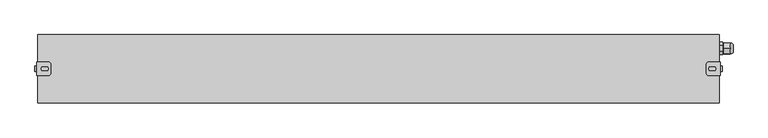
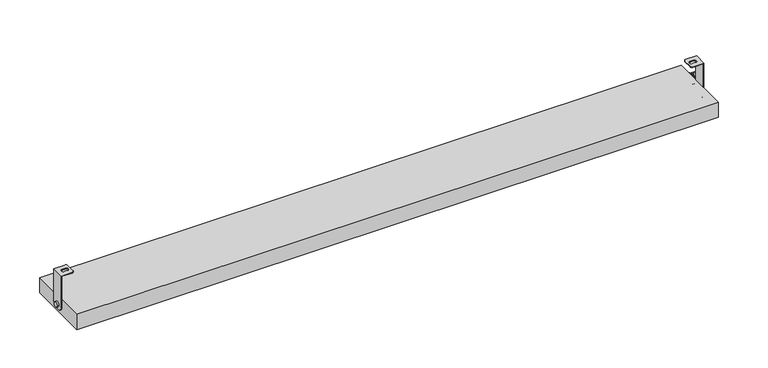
"""IFC4 building model written with IfcOpenShell, lengths in millimetres: light fixture geometry, GENILED_Светильник светодиодный_Titan Advanced : Titan Advanced 1000x100x25 40Вт IP66 Опал."""

from ifc_helpers import new_model, si_unit, point, frame, frame_2d, origin, origin_with_axes, place, context, project, spatial, polyline, circle_curve, ellipse_curve, trimmed, segment, composite_curve, outline, extrude, source, transform, mapped, element, save
from ifc_brep_helpers import plane_surface, cylinder_surface, revolved_surface, advanced_brep


def light_fixture_3a991945(model_context):
    return source(origin(), model_context, "Body", "SolidModel", [
        advanced_brep(
        [(-484.0, 10.0, 64.5), (-501.0, 10.0, 64.5), (-501.0, -10.0, 64.5), (-484.0, -10.0, 64.5), (-481.0, -7.0, 64.5), (-481.0, 7.0, 64.5), (-487.0, 2.75, 64.5), (-487.0, -2.75, 64.5), (-492.0, -2.75, 64.5), (-492.0, 2.75, 64.5), (-484.0, -10.0, 63.5), (-500.0, -10.0, 63.5), (-500.0, 10.0, 63.5), (-484.0, 10.0, 63.5), (-481.0, 7.0, 63.5), (-481.0, -7.0, 63.5), (-487.0, 2.75, 63.5), (-492.0, 2.75, 63.5), (-492.0, -2.75, 63.5), (-487.0, -2.75, 63.5), (-501.0, -10.0, 12.5), (-500.0, -10.0, 12.5), (-501.0, 10.0, 12.5), (-501.0, 2.0, 4.5), (-501.0, -2.0, 4.5), (-501.0, 4.0, 12.5), (-501.0, -4.0, 12.5), (-500.0, 10.0, 12.5), (-500.0, -2.0, 4.5), (-500.0, 2.0, 4.5), (-504.0, -4.0, 12.5), (-504.0, 4.0, 12.5)],
        [
            (0, 1),
            (1, 2),
            (2, 3),
            (3, 4, circle_curve(frame((-484.0, -7.0, 64.5), z_axis=(0.0, 0.0, 1.0), x_axis=(-1.0, 0.0, 0.0)), 3.0)),
            (4, 5),
            (5, 0, circle_curve(frame((-484.0, 7.0, 64.5), z_axis=(0.0, 0.0, 1.0), x_axis=(-1.0, 0.0, 0.0)), 3.0)),
            (6, 7, circle_curve(frame((-487.0, 0.0, 64.5), z_axis=(0.0, 0.0, -1.0), x_axis=(-1.0, 0.0, 0.0)), 2.75)),
            (7, 8),
            (8, 9, circle_curve(frame((-492.0, 0.0, 64.5), z_axis=(0.0, 0.0, -1.0), x_axis=(-1.0, 0.0, 0.0)), 2.75)),
            (9, 6),
            (10, 11),
            (11, 12),
            (12, 13),
            (13, 14, circle_curve(frame((-484.0, 7.0, 63.5), z_axis=(0.0, 0.0, -1.0), x_axis=(-1.0, 0.0, 0.0)), 3.0)),
            (14, 15),
            (15, 10, circle_curve(frame((-484.0, -7.0, 63.5), z_axis=(0.0, 0.0, -1.0), x_axis=(-1.0, 0.0, 0.0)), 3.0)),
            (16, 17),
            (17, 18, circle_curve(frame((-492.0, 0.0, 63.5), z_axis=(0.0, 0.0, 1.0), x_axis=(-1.0, 0.0, 0.0)), 2.75)),
            (18, 19),
            (19, 16, circle_curve(frame((-487.0, 0.0, 63.5), z_axis=(0.0, 0.0, 1.0), x_axis=(-1.0, 0.0, 0.0)), 2.75)),
            (5, 14),
            (13, 0),
            (4, 15),
            (3, 10),
            (2, 20),
            (20, 21),
            (21, 11),
            (1, 22),
            (22, 23, circle_curve(frame((-501.0, 2.0, 12.5), z_axis=(-1.0, 0.0, 0.0), x_axis=(0.0, 1.0, 0.0)), 8.0)),
            (23, 24),
            (24, 20, circle_curve(frame((-501.0, -2.0, 12.5), z_axis=(-1.0, 0.0, 0.0), x_axis=(0.0, 1.0, 0.0)), 8.0)),
            (25, 26, circle_curve(frame((-501.0, 0.0, 12.5), z_axis=(1.0, 0.0, 0.0), x_axis=(0.0, 1.0, 0.0)), 4.0)),
            (26, 25, circle_curve(frame((-501.0, 0.0, 12.5), z_axis=(1.0, 0.0, 0.0), x_axis=(0.0, 1.0, 0.0)), 4.0)),
            (12, 27),
            (27, 22),
            (9, 17),
            (16, 6),
            (8, 18),
            (7, 19),
            (21, 28, circle_curve(frame((-500.0, -2.0, 12.5), z_axis=(1.0, 0.0, 0.0), x_axis=(0.0, 1.0, 0.0)), 8.0)),
            (28, 29),
            (29, 27, circle_curve(frame((-500.0, 2.0, 12.5), z_axis=(1.0, 0.0, 0.0), x_axis=(0.0, 1.0, 0.0)), 8.0)),
            (24, 28),
            (23, 29),
            (30, 31, circle_curve(frame((-504.0, 0.0, 12.5), z_axis=(-1.0, 0.0, 0.0), x_axis=(0.0, 1.0, 0.0)), 4.0)),
            (31, 30, circle_curve(frame((-504.0, 0.0, 12.5), z_axis=(-1.0, 0.0, 0.0), x_axis=(0.0, 1.0, 0.0)), 4.0)),
            (31, 25),
            (26, 30),
        ],
        [
            plane_surface(frame((-487.0, 7.0, 64.5), z_axis=(0.0, 0.0, 1.0), x_axis=(0.0, 1.0, 0.0))),
            plane_surface(frame((-487.0, 7.0, 63.5), z_axis=(0.0, 0.0, -1.0), x_axis=(0.0, -1.0, 0.0))),
            cylinder_surface(frame((-484.0, 7.0, 63.5), z_axis=(0.0, 0.0, 1.0), x_axis=(-1.0, 0.0, 0.0)), 3.0),
            plane_surface(frame((-481.0, 7.0, 64.5), z_axis=(1.0, 0.0, 0.0), x_axis=(0.0, 0.0, -1.0))),
            cylinder_surface(frame((-484.0, -7.0, 63.5), z_axis=(0.0, 0.0, 1.0), x_axis=(-1.0, 0.0, 0.0)), 3.0),
            plane_surface(frame((-484.0, -10.0, 64.5), z_axis=(0.0, -1.0, 0.0), x_axis=(0.0, 0.0, -1.0))),
            plane_surface(frame((-501.0, -10.0, 64.5), z_axis=(-1.0, 0.0, 0.0), x_axis=(0.0, 0.0, -1.0))),
            plane_surface(frame((-501.0, 10.0, 64.5), z_axis=(0.0, 1.0, 0.0), x_axis=(0.0, 0.0, -1.0))),
            plane_surface(frame((-487.0, 2.75, 64.5), z_axis=(0.0, -1.0, 0.0), x_axis=(0.0, 0.0, -1.0))),
            revolved_surface(polyline([(-494.75, 0.0, 63.5), (-494.75, 0.0, 64.5)]), (-492.0, 0.0, 12.5), (0.0, 0.0, -1.0)),
            plane_surface(frame((-492.0, -2.75, 64.5), z_axis=(0.0, 1.0, 0.0), x_axis=(0.0, 0.0, -1.0))),
            revolved_surface(polyline([(-489.75, 0.0, 63.5), (-489.75, 0.0, 64.5)]), (-487.0, 0.0, 12.5), (0.0, 0.0, -1.0)),
            plane_surface(frame((-500.0, -10.0, 64.5), z_axis=(1.0, 0.0, 0.0), x_axis=(0.0, 1.0, 0.0))),
            cylinder_surface(frame((-500.0, -2.0, 12.5), z_axis=(-1.0, 0.0, 0.0), x_axis=(0.0, 1.0, 0.0)), 8.0),
            plane_surface(frame((-501.0, -2.0, 4.5), z_axis=(0.0, 0.0, -1.0), x_axis=(1.0, 0.0, 0.0))),
            cylinder_surface(frame((-500.0, 2.0, 12.5), z_axis=(-1.0, 0.0, 0.0), x_axis=(0.0, 1.0, 0.0)), 8.0),
            plane_surface(frame((-504.0, 4.0, 12.5), z_axis=(-1.0, 0.0, 0.0), x_axis=(0.0, 0.0, 1.0))),
            cylinder_surface(frame((-501.0, 0.0, 12.5), z_axis=(-1.0, 0.0, 0.0), x_axis=(0.0, 1.0, 0.0)), 4.0),
        ],
        [
            (0, [[1, 2, 3, 4, 5, 6], [7, 8, 9, 10]]),
            (1, [[11, 12, 13, 14, 15, 16], [17, 18, 19, 20]]),
            (2, [[21, -14, 22, -6]]),
            (3, [[23, -15, -21, -5]]),
            (4, [[24, -16, -23, -4]]),
            (5, [[-3, 25, 26, 27, -11, -24]]),
            (6, [[28, 29, 30, 31, -25, -2], [32, 33]]),
            (7, [[-13, 34, 35, -28, -1, -22]]),
            (8, [[36, -17, 37, -10]]),
            (9, [[38, -18, -36, -9]]),
            (10, [[39, -19, -38, -8]]),
            (11, [[-37, -20, -39, -7]]),
            (12, [[-34, -12, -27, 40, 41, 42]]),
            (13, [[43, -40, -26, -31]]),
            (14, [[44, -41, -43, -30]]),
            (15, [[-35, -42, -44, -29]]),
            (16, [[45, 46]]),
            (17, [[47, -33, 48, -46]]),
            (17, [[-48, -32, -47, -45]]),
        ],
    ),
        advanced_brep(
        [(484.0, 10.0, 64.5), (481.0, 7.0, 64.5), (481.0, -7.0, 64.5), (484.0, -10.0, 64.5), (501.0, -10.0, 64.5), (501.0, 10.0, 64.5), (487.0, 2.75, 64.5), (492.0, 2.75, 64.5), (492.0, -2.75, 64.5), (487.0, -2.75, 64.5), (484.0, -10.0, 63.5), (481.0, -7.0, 63.5), (481.0, 7.0, 63.5), (484.0, 10.0, 63.5), (500.0, 10.0, 63.5), (500.0, -10.0, 63.5), (487.0, 2.75, 63.5), (487.0, -2.75, 63.5), (492.0, -2.75, 63.5), (492.0, 2.75, 63.5), (500.0, -10.0, 12.5), (501.0, -10.0, 12.5), (501.0, -2.0, 4.5), (501.0, 2.0, 4.5), (501.0, 10.0, 12.5), (501.0, 4.0, 12.5), (501.0, -4.0, 12.5), (500.0, 10.0, 12.5), (500.0, 2.0, 4.5), (500.0, -2.0, 4.5), (504.0, -4.0, 12.5), (504.0, 4.0, 12.5)],
        [
            (0, 1, circle_curve(frame((484.0, 7.0, 64.5), z_axis=(0.0, 0.0, 1.0), x_axis=(1.0, 0.0, 0.0)), 3.0)),
            (1, 2),
            (2, 3, circle_curve(frame((484.0, -7.0, 64.5), z_axis=(0.0, 0.0, 1.0), x_axis=(1.0, 0.0, 0.0)), 3.0)),
            (3, 4),
            (4, 5),
            (5, 0),
            (6, 7),
            (7, 8, circle_curve(frame((492.0, 0.0, 64.5), z_axis=(0.0, 0.0, -1.0), x_axis=(1.0, 0.0, 0.0)), 2.75)),
            (8, 9),
            (9, 6, circle_curve(frame((487.0, 0.0, 64.5), z_axis=(0.0, 0.0, -1.0), x_axis=(1.0, 0.0, 0.0)), 2.75)),
            (10, 11, circle_curve(frame((484.0, -7.0, 63.5), z_axis=(0.0, 0.0, -1.0), x_axis=(1.0, 0.0, 0.0)), 3.0)),
            (11, 12),
            (12, 13, circle_curve(frame((484.0, 7.0, 63.5), z_axis=(0.0, 0.0, -1.0), x_axis=(1.0, 0.0, 0.0)), 3.0)),
            (13, 14),
            (14, 15),
            (15, 10),
            (16, 17, circle_curve(frame((487.0, 0.0, 63.5), z_axis=(0.0, 0.0, 1.0), x_axis=(1.0, 0.0, 0.0)), 2.75)),
            (17, 18),
            (18, 19, circle_curve(frame((492.0, 0.0, 63.5), z_axis=(0.0, 0.0, 1.0), x_axis=(1.0, 0.0, 0.0)), 2.75)),
            (19, 16),
            (0, 13),
            (12, 1),
            (11, 2),
            (10, 3),
            (15, 20),
            (20, 21),
            (21, 4),
            (21, 22, circle_curve(frame((501.0, -2.0, 12.5), z_axis=(1.0, 0.0, 0.0), x_axis=(0.0, 1.0, 0.0)), 8.0)),
            (22, 23),
            (23, 24, circle_curve(frame((501.0, 2.0, 12.5), z_axis=(1.0, 0.0, 0.0), x_axis=(0.0, 1.0, 0.0)), 8.0)),
            (24, 5),
            (25, 26, circle_curve(frame((501.0, 0.0, 12.5), z_axis=(-1.0, 0.0, 0.0), x_axis=(0.0, 1.0, 0.0)), 4.0)),
            (26, 25, circle_curve(frame((501.0, 0.0, 12.5), z_axis=(-1.0, 0.0, 0.0), x_axis=(0.0, 1.0, 0.0)), 4.0)),
            (24, 27),
            (27, 14),
            (6, 16),
            (19, 7),
            (18, 8),
            (17, 9),
            (27, 28, circle_curve(frame((500.0, 2.0, 12.5), z_axis=(-1.0, 0.0, 0.0), x_axis=(0.0, 1.0, 0.0)), 8.0)),
            (28, 29),
            (29, 20, circle_curve(frame((500.0, -2.0, 12.5), z_axis=(-1.0, 0.0, 0.0), x_axis=(0.0, 1.0, 0.0)), 8.0)),
            (29, 22),
            (28, 23),
            (30, 31, circle_curve(frame((504.0, 0.0, 12.5), z_axis=(1.0, 0.0, 0.0), x_axis=(0.0, 1.0, 0.0)), 4.0)),
            (31, 30, circle_curve(frame((504.0, 0.0, 12.5), z_axis=(1.0, 0.0, 0.0), x_axis=(0.0, 1.0, 0.0)), 4.0)),
            (30, 26),
            (25, 31),
        ],
        [
            plane_surface(frame((487.0, 7.0, 64.5), z_axis=(0.0, 0.0, 1.0), x_axis=(0.0, 1.0, 0.0))),
            plane_surface(frame((487.0, 7.0, 63.5), z_axis=(0.0, 0.0, -1.0), x_axis=(0.0, -1.0, 0.0))),
            cylinder_surface(frame((484.0, 7.0, 63.5), z_axis=(0.0, 0.0, 1.0), x_axis=(1.0, 0.0, 0.0)), 3.0),
            plane_surface(frame((481.0, 7.0, 64.5), z_axis=(-1.0, 0.0, 0.0), x_axis=(0.0, 0.0, -1.0))),
            cylinder_surface(frame((484.0, -7.0, 63.5), z_axis=(0.0, 0.0, 1.0), x_axis=(1.0, 0.0, 0.0)), 3.0),
            plane_surface(frame((484.0, -10.0, 64.5), z_axis=(0.0, -1.0, 0.0), x_axis=(0.0, 0.0, -1.0))),
            plane_surface(frame((501.0, -10.0, 64.5), z_axis=(1.0, 0.0, 0.0), x_axis=(0.0, 0.0, -1.0))),
            plane_surface(frame((501.0, 10.0, 64.5), z_axis=(0.0, 1.0, 0.0), x_axis=(0.0, 0.0, -1.0))),
            plane_surface(frame((487.0, 2.75, 64.5), z_axis=(0.0, -1.0, 0.0), x_axis=(0.0, 0.0, -1.0))),
            revolved_surface(polyline([(494.75, 0.0, 63.5), (494.75, 0.0, 64.5)]), (492.0, 0.0, 12.5), (0.0, 0.0, -1.0)),
            plane_surface(frame((492.0, -2.75, 64.5), z_axis=(0.0, 1.0, 0.0), x_axis=(0.0, 0.0, -1.0))),
            revolved_surface(polyline([(489.75, 0.0, 63.5), (489.75, 0.0, 64.5)]), (487.0, 0.0, 12.5), (0.0, 0.0, -1.0)),
            plane_surface(frame((500.0, -10.0, 64.5), z_axis=(-1.0, 0.0, 0.0), x_axis=(0.0, 1.0, 0.0))),
            cylinder_surface(frame((500.0, -2.0, 12.5), z_axis=(1.0, 0.0, 0.0), x_axis=(0.0, 1.0, 0.0)), 8.0),
            plane_surface(frame((501.0, -2.0, 4.5), z_axis=(0.0, 0.0, -1.0), x_axis=(-1.0, 0.0, 0.0))),
            cylinder_surface(frame((500.0, 2.0, 12.5), z_axis=(1.0, 0.0, 0.0), x_axis=(0.0, 1.0, 0.0)), 8.0),
            plane_surface(frame((504.0, 4.0, 12.5), z_axis=(1.0, 0.0, 0.0), x_axis=(0.0, 0.0, 1.0))),
            cylinder_surface(frame((501.0, 0.0, 12.5), z_axis=(1.0, 0.0, 0.0), x_axis=(0.0, 1.0, 0.0)), 4.0),
        ],
        [
            (0, [[1, 2, 3, 4, 5, 6], [7, 8, 9, 10]]),
            (1, [[11, 12, 13, 14, 15, 16], [17, 18, 19, 20]]),
            (2, [[-1, 21, -13, 22]]),
            (3, [[-2, -22, -12, 23]]),
            (4, [[-3, -23, -11, 24]]),
            (5, [[-24, -16, 25, 26, 27, -4]]),
            (6, [[-5, -27, 28, 29, 30, 31], [32, 33]]),
            (7, [[-21, -6, -31, 34, 35, -14]]),
            (8, [[-7, 36, -20, 37]]),
            (9, [[-8, -37, -19, 38]]),
            (10, [[-9, -38, -18, 39]]),
            (11, [[-10, -39, -17, -36]]),
            (12, [[40, 41, 42, -25, -15, -35]]),
            (13, [[-28, -26, -42, 43]]),
            (14, [[-29, -43, -41, 44]]),
            (15, [[-30, -44, -40, -34]]),
            (16, [[45, 46]]),
            (17, [[-45, 47, -32, 48]]),
            (17, [[-46, -48, -33, -47]]),
        ],
    ),
        advanced_brep(
        [(520.0120269, 24.15, 12.5), (520.0120269, 35.85, 12.5), (520.0120269, 33.5, 12.5), (520.0120269, 26.5, 12.5), (516.0120269, 22.0, 12.5), (516.0120269, 26.0, 5.5717968), (516.0120269, 34.0, 5.5717968), (516.0120269, 38.0, 12.5), (516.0120269, 34.0, 19.4282032), (516.0120269, 26.0, 19.4282032), (516.0120269, 33.5, 12.5), (516.0120269, 26.5, 12.5), (516.0120269, 22.0, 8.3768944), (516.0120269, 22.4292858, 7.6333496), (516.0120269, 29.5707142, 3.510244), (516.0120269, 30.4292858, 3.510244), (516.0120269, 37.5707142, 7.6333496), (516.0120269, 38.0, 8.3768944), (516.0120269, 38.0, 16.6231056), (516.0120269, 37.5707142, 17.3666504), (516.0120269, 30.4292858, 21.489756), (516.0120269, 29.5707142, 21.489756), (516.0120269, 22.4292858, 17.3666504), (516.0120269, 22.0, 16.6231056), (506.6, 29.5707142, 3.510244), (506.6, 22.4292858, 7.6333496), (506.6, 22.0, 8.3768944), (506.6, 22.0, 16.6231056), (506.6, 22.4292858, 17.3666504), (506.6, 29.5707142, 21.489756), (506.6, 30.4292858, 21.489756), (506.6, 37.5707142, 17.3666504), (506.6, 38.0, 16.6231056), (506.6, 38.0, 8.3768944), (506.6, 37.5707142, 7.6333496), (506.6, 30.4292858, 3.510244), (506.6, 37.25, 12.5), (506.6, 22.75, 12.5), (504.6, 37.25, 12.5), (504.6, 22.75, 12.5), (504.6, 38.989756, 12.9292858), (504.6, 34.8666504, 20.0707142), (504.6, 34.1231056, 20.5), (504.6, 25.8768944, 20.5), (504.6, 25.1333496, 20.0707142), (504.6, 21.010244, 12.9292858), (504.6, 21.0, 12.5), (504.6, 21.010244, 12.0707142), (504.6, 25.1333496, 4.9292858), (504.6, 25.8768944, 4.5), (504.6, 34.1231056, 4.5), (504.6, 34.8666504, 4.9292858), (504.6, 38.989756, 12.0707142), (504.6, 39.0, 12.5), (500.0, 38.989756, 12.0707142), (500.0, 34.8666504, 4.9292858), (500.0, 34.1231056, 4.5), (500.0, 25.8768944, 4.5), (500.0, 25.1333496, 4.9292858), (500.0, 21.010244, 12.0707142), (500.0, 21.0, 12.5), (500.0, 21.010244, 12.9292858), (500.0, 25.1333496, 20.0707142), (500.0, 25.8768944, 20.5), (500.0, 34.1231056, 20.5), (500.0, 34.8666504, 20.0707142), (500.0, 38.989756, 12.9292858), (500.0, 39.0, 12.5)],
        [
            (0, 1, circle_curve(frame((520.0120269, 30.0, 12.5), z_axis=(1.0, 0.0, 0.0), x_axis=(0.0, 1.0, 0.0)), 5.85)),
            (1, 2),
            (2, 3, circle_curve(frame((520.0120269, 30.0, 12.5), z_axis=(-1.0, 0.0, 0.0), x_axis=(0.0, 1.0, 0.0)), 3.5)),
            (3, 0),
            (1, 0, circle_curve(frame((520.0120269, 30.0, 12.5), z_axis=(1.0, 0.0, 0.0), x_axis=(0.0, 1.0, 0.0)), 5.85)),
            (3, 2, circle_curve(frame((520.0120269, 30.0, 12.5), z_axis=(-1.0, 0.0, 0.0), x_axis=(0.0, 1.0, 0.0)), 3.5)),
            (0, 4, circle_curve(frame((515.6269324, 27.5123851, 12.5), z_axis=(0.0, 0.0, -1.0), x_axis=(0.0, 1.0, 0.0)), 5.5258201)),
            (4, 5, circle_curve(frame((516.0120269, 30.0, 12.5), z_axis=(1.0, 0.0, 0.0), x_axis=(0.0, 1.0, 0.0)), 8.0)),
            (5, 6, circle_curve(frame((516.0120269, 30.0, 12.5), z_axis=(1.0, 0.0, 0.0), x_axis=(0.0, 1.0, 0.0)), 8.0)),
            (6, 7, circle_curve(frame((516.0120269, 30.0, 12.5), z_axis=(1.0, 0.0, 0.0), x_axis=(0.0, 1.0, 0.0)), 8.0)),
            (7, 1, circle_curve(frame((515.6269324, 32.4876149, 12.5), z_axis=(0.0, 0.0, -1.0), x_axis=(0.0, -1.0, 0.0)), 5.5258201)),
            (7, 8, circle_curve(frame((516.0120269, 30.0, 12.5), z_axis=(1.0, 0.0, 0.0), x_axis=(0.0, 1.0, 0.0)), 8.0)),
            (8, 9, circle_curve(frame((516.0120269, 30.0, 12.5), z_axis=(1.0, 0.0, 0.0), x_axis=(0.0, 1.0, 0.0)), 8.0)),
            (9, 4, circle_curve(frame((516.0120269, 30.0, 12.5), z_axis=(1.0, 0.0, 0.0), x_axis=(0.0, 1.0, 0.0)), 8.0)),
            (2, 10),
            (10, 11, circle_curve(frame((516.0120269, 30.0, 12.5), z_axis=(-1.0, 0.0, 0.0), x_axis=(0.0, 1.0, 0.0)), 3.5)),
            (11, 3),
            (11, 10, circle_curve(frame((516.0120269, 30.0, 12.5), z_axis=(-1.0, 0.0, 0.0), x_axis=(0.0, 1.0, 0.0)), 3.5)),
            (4, 12),
            (12, 13, circle_curve(frame((516.0120269, 30.0, 12.5), z_axis=(1.0, 0.0, 0.0), x_axis=(0.0, -1.0, 0.0)), 9.0)),
            (13, 5),
            (5, 14),
            (14, 15, circle_curve(frame((516.0120269, 30.0, 12.5), z_axis=(1.0, 0.0, 0.0), x_axis=(0.0, -1.0, 0.0)), 9.0)),
            (15, 6),
            (6, 16),
            (16, 17, circle_curve(frame((516.0120269, 30.0, 12.5), z_axis=(1.0, 0.0, 0.0), x_axis=(0.0, -1.0, 0.0)), 9.0)),
            (17, 7),
            (7, 18),
            (18, 19, circle_curve(frame((516.0120269, 30.0, 12.5), z_axis=(1.0, 0.0, 0.0), x_axis=(0.0, -1.0, 0.0)), 9.0)),
            (19, 8),
            (8, 20),
            (20, 21, circle_curve(frame((516.0120269, 30.0, 12.5), z_axis=(1.0, 0.0, 0.0), x_axis=(0.0, -1.0, 0.0)), 9.0)),
            (21, 9),
            (9, 22),
            (22, 23, circle_curve(frame((516.0120269, 30.0, 12.5), z_axis=(1.0, 0.0, 0.0), x_axis=(0.0, -1.0, 0.0)), 9.0)),
            (23, 4),
            (24, 25),
            (25, 26, circle_curve(frame((506.6, 30.0, 12.5), z_axis=(-1.0, 0.0, 0.0), x_axis=(0.0, -1.0, 0.0)), 9.0)),
            (26, 27),
            (27, 28, circle_curve(frame((506.6, 30.0, 12.5), z_axis=(-1.0, 0.0, 0.0), x_axis=(0.0, -1.0, 0.0)), 9.0)),
            (28, 29),
            (29, 30, circle_curve(frame((506.6, 30.0, 12.5), z_axis=(-1.0, 0.0, 0.0), x_axis=(0.0, -1.0, 0.0)), 9.0)),
            (30, 31),
            (31, 32, circle_curve(frame((506.6, 30.0, 12.5), z_axis=(-1.0, 0.0, 0.0), x_axis=(0.0, -1.0, 0.0)), 9.0)),
            (32, 33),
            (33, 34, circle_curve(frame((506.6, 30.0, 12.5), z_axis=(-1.0, 0.0, 0.0), x_axis=(0.0, -1.0, 0.0)), 9.0)),
            (34, 35),
            (35, 24, circle_curve(frame((506.6, 30.0, 12.5), z_axis=(-1.0, 0.0, 0.0), x_axis=(0.0, -1.0, 0.0)), 9.0)),
            (36, 37, circle_curve(frame((506.6, 30.0, 12.5), z_axis=(1.0, 0.0, 0.0), x_axis=(0.0, -1.0, 0.0)), 7.25)),
            (37, 36, circle_curve(frame((506.6, 30.0, 12.5), z_axis=(1.0, 0.0, 0.0), x_axis=(0.0, -1.0, 0.0)), 7.25)),
            (15, 35),
            (34, 16),
            (17, 33),
            (32, 18),
            (19, 31),
            (30, 20),
            (21, 29),
            (28, 22),
            (23, 27),
            (26, 12),
            (13, 25),
            (24, 14),
            (36, 38),
            (38, 39, circle_curve(frame((504.6, 30.0, 12.5), z_axis=(1.0, 0.0, 0.0), x_axis=(0.0, -1.0, 0.0)), 7.25)),
            (39, 37),
            (39, 38, circle_curve(frame((504.6, 30.0, 12.5), z_axis=(1.0, 0.0, 0.0), x_axis=(0.0, -1.0, 0.0)), 7.25)),
            (40, 41),
            (41, 42, circle_curve(frame((504.6, 30.0, 12.5), z_axis=(1.0, 0.0, 0.0), x_axis=(0.0, -1.0, 0.0)), 9.0)),
            (42, 43),
            (43, 44, circle_curve(frame((504.6, 30.0, 12.5), z_axis=(1.0, 0.0, 0.0), x_axis=(0.0, -1.0, 0.0)), 9.0)),
            (44, 45),
            (45, 46, circle_curve(frame((504.6, 30.0, 12.5), z_axis=(1.0, 0.0, 0.0), x_axis=(0.0, -1.0, 0.0)), 9.0)),
            (46, 47, circle_curve(frame((504.6, 30.0, 12.5), z_axis=(1.0, 0.0, 0.0), x_axis=(0.0, -1.0, 0.0)), 9.0)),
            (47, 48),
            (48, 49, circle_curve(frame((504.6, 30.0, 12.5), z_axis=(1.0, 0.0, 0.0), x_axis=(0.0, -1.0, 0.0)), 9.0)),
            (49, 50),
            (50, 51, circle_curve(frame((504.6, 30.0, 12.5), z_axis=(1.0, 0.0, 0.0), x_axis=(0.0, -1.0, 0.0)), 9.0)),
            (51, 52),
            (52, 53, circle_curve(frame((504.6, 30.0, 12.5), z_axis=(1.0, 0.0, 0.0), x_axis=(0.0, -1.0, 0.0)), 9.0)),
            (53, 40, circle_curve(frame((504.6, 30.0, 12.5), z_axis=(1.0, 0.0, 0.0), x_axis=(0.0, -1.0, 0.0)), 9.0)),
            (54, 55),
            (55, 56, circle_curve(frame((500.0, 30.0, 12.5), z_axis=(-1.0, 0.0, 0.0), x_axis=(0.0, -1.0, 0.0)), 9.0)),
            (56, 57),
            (57, 58, circle_curve(frame((500.0, 30.0, 12.5), z_axis=(-1.0, 0.0, 0.0), x_axis=(0.0, -1.0, 0.0)), 9.0)),
            (58, 59),
            (59, 60, circle_curve(frame((500.0, 30.0, 12.5), z_axis=(-1.0, 0.0, 0.0), x_axis=(0.0, -1.0, 0.0)), 9.0)),
            (60, 61, circle_curve(frame((500.0, 30.0, 12.5), z_axis=(-1.0, 0.0, 0.0), x_axis=(0.0, -1.0, 0.0)), 9.0)),
            (61, 62),
            (62, 63, circle_curve(frame((500.0, 30.0, 12.5), z_axis=(-1.0, 0.0, 0.0), x_axis=(0.0, -1.0, 0.0)), 9.0)),
            (63, 64),
            (64, 65, circle_curve(frame((500.0, 30.0, 12.5), z_axis=(-1.0, 0.0, 0.0), x_axis=(0.0, -1.0, 0.0)), 9.0)),
            (65, 66),
            (66, 67, circle_curve(frame((500.0, 30.0, 12.5), z_axis=(-1.0, 0.0, 0.0), x_axis=(0.0, -1.0, 0.0)), 9.0)),
            (67, 54, circle_curve(frame((500.0, 30.0, 12.5), z_axis=(-1.0, 0.0, 0.0), x_axis=(0.0, -1.0, 0.0)), 9.0)),
            (40, 66),
            (65, 41),
            (42, 64),
            (63, 43),
            (44, 62),
            (61, 45),
            (47, 59),
            (58, 48),
            (49, 57),
            (56, 50),
            (51, 55),
            (54, 52),
            (67, 53),
            (46, 60),
        ],
        [
            plane_surface(frame((520.0120269, 30.0, 12.5), z_axis=(1.0, 0.0, 0.0), x_axis=(0.0, 1.0, 0.0))),
            revolved_surface(trimmed(ellipse_curve(frame((515.6269324, 32.4876149, 12.5), z_axis=(0.0, 0.0, 1.0), x_axis=(0.0, -1.0, 0.0)), 5.5258201, 5.5258201), [point((520.0120269, 35.85, 12.5))], [point((516.0120269, 38.0, 12.5))], True, "CARTESIAN"), (516.0120269, 30.0, 12.5), (-1.0, 0.0, 0.0)),
            revolved_surface(polyline([(516.0120269, 33.5, 12.5), (520.0120269, 33.5, 12.5)]), (516.0120269, 30.0, 12.5), (-1.0, 0.0, 0.0)),
            plane_surface(frame((516.0120269, 30.0, 3.2623957), z_axis=(1.0000000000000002, 0.0, 0.0), x_axis=(0.0, 0.8660254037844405, 0.49999999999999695))),
            plane_surface(frame((506.6, 30.0, 3.2623957), z_axis=(-1.0000000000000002, 0.0, 0.0), x_axis=(0.0, -0.8660254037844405, -0.49999999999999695))),
            plane_surface(frame((516.0120269, 30.0, 3.2623957), z_axis=(0.0, 0.49999999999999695, -0.8660254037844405), x_axis=(-1.0, 0.0, 0.0))),
            plane_surface(frame((516.0120269, 38.0, 7.8811978), z_axis=(0.0, 1.0, 0.0), x_axis=(-1.0, 0.0, 0.0))),
            plane_surface(frame((516.0120269, 38.0, 17.1188022), z_axis=(0.0, 0.5000000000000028, 0.8660254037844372), x_axis=(-1.0, 0.0, 0.0))),
            plane_surface(frame((516.0120269, 30.0, 21.7376043), z_axis=(0.0, -0.49999999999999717, 0.8660254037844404), x_axis=(-1.0, 0.0, 0.0))),
            plane_surface(frame((516.0120269, 22.0, 17.1188022), z_axis=(0.0, -1.0, 0.0), x_axis=(-1.0, 0.0, 0.0))),
            plane_surface(frame((516.0120269, 22.0, 7.8811978), z_axis=(0.0, -0.5000000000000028, -0.8660254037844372), x_axis=(-1.0, 0.0, 0.0))),
            cylinder_surface(frame((504.6, 30.0, 12.5), z_axis=(1.0, 0.0, 0.0), x_axis=(0.0, -1.0, 0.0)), 7.25),
            plane_surface(frame((504.6, 39.2376043, 12.5), z_axis=(1.0, 0.0, 0.0), x_axis=(0.0, -0.5000000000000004, 0.8660254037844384))),
            plane_surface(frame((500.0, 39.2376043, 12.5), z_axis=(-1.0, 0.0, 0.0), x_axis=(0.0, 0.5000000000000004, -0.8660254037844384))),
            plane_surface(frame((504.6, 39.2376043, 12.5), z_axis=(0.0, 0.8660254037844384, 0.5000000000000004), x_axis=(-1.0, 0.0, 0.0))),
            plane_surface(frame((504.6, 34.6188022, 20.5), z_axis=(0.0, 0.0, 1.0), x_axis=(-1.0, 0.0, 0.0))),
            plane_surface(frame((504.6, 25.3811978, 20.5), z_axis=(0.0, -0.866025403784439, 0.49999999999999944), x_axis=(-1.0, 0.0, 0.0))),
            plane_surface(frame((504.6, 20.7623957, 12.5), z_axis=(0.0, -0.8660254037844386, -0.5000000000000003), x_axis=(-1.0, 0.0, 0.0))),
            plane_surface(frame((504.6, 25.3811978, 4.5), z_axis=(0.0, 0.0, -1.0), x_axis=(-1.0, 0.0, 0.0))),
            plane_surface(frame((504.6, 34.6188022, 4.5), z_axis=(0.0, 0.8660254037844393, -0.49999999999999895), x_axis=(-1.0, 0.0, 0.0))),
            cylinder_surface(frame((500.0, 30.0, 12.5), z_axis=(-1.0, 0.0, 0.0), x_axis=(0.0, -1.0, 0.0)), 9.0),
        ],
        [
            (0, [[1, 2, 3, 4]]),
            (0, [[-2, 5, -4, 6]]),
            (1, [[-1, 7, 8, 9, 10, 11]]),
            (1, [[-5, -11, 12, 13, 14, -7]]),
            (2, [[-3, 15, 16, 17]]),
            (2, [[-6, -17, 18, -15]]),
            (3, [[-8, 19, 20, 21]]),
            (3, [[-9, 22, 23, 24]]),
            (3, [[-10, 25, 26, 27]]),
            (3, [[-12, 28, 29, 30]]),
            (3, [[-13, 31, 32, 33]]),
            (3, [[-14, 34, 35, 36]]),
            (3, [[-16, -18]]),
            (4, [[37, 38, 39, 40, 41, 42, 43, 44, 45, 46, 47, 48], [49, 50]]),
            (5, [[-25, -24, 51, -47, 52]]),
            (6, [[-27, 53, -45, 54, -28]]),
            (7, [[-30, 55, -43, 56, -31]]),
            (8, [[-34, -33, 57, -41, 58]]),
            (9, [[-36, 59, -39, 60, -19]]),
            (10, [[-21, 61, -37, 62, -22]]),
            (11, [[63, 64, 65, -49]]),
            (11, [[-63, -50, -65, 66]]),
            (12, [[67, 68, 69, 70, 71, 72, 73, 74, 75, 76, 77, 78, 79, 80], [-64, -66]]),
            (13, [[81, 82, 83, 84, 85, 86, 87, 88, 89, 90, 91, 92, 93, 94]]),
            (14, [[-67, 95, -92, 96]]),
            (15, [[-69, 97, -90, 98]]),
            (16, [[-71, 99, -88, 100]]),
            (17, [[-74, 101, -85, 102]]),
            (18, [[-76, 103, -83, 104]]),
            (19, [[-78, 105, -81, 106]]),
            (20, [[-20, -60, -38, -61]]),
            (20, [[-23, -62, -48, -51]]),
            (20, [[-26, -52, -46, -53]]),
            (20, [[-75, -102, -84, -103]]),
            (20, [[-77, -104, -82, -105]]),
            (20, [[107, -79, -106, -94]]),
            (20, [[108, -86, -101, -73]]),
            (20, [[-29, -54, -44, -55]]),
            (20, [[-32, -56, -42, -57]]),
            (20, [[-35, -58, -40, -59]]),
            (20, [[-68, -96, -91, -97]]),
            (20, [[-70, -98, -89, -99]]),
            (20, [[-107, -93, -95, -80]]),
            (20, [[-108, -72, -100, -87]]),
        ],
    ),
        advanced_brep(
        [(500.0, 50.0, 25.0), (-500.0, 50.0, 25.0), (-500.0, -50.0, 25.0), (500.0, -50.0, 25.0), (500.0, 50.0, 0.0), (500.0, -50.0, 0.0), (-500.0, -50.0, 0.0), (-500.0, 50.0, 0.0), (470.0, 35.0, 0.0), (-470.0, 35.0, 0.0), (-485.0, 20.0, 0.0), (-485.0, -20.0, 0.0), (-470.0, -35.0, 0.0), (470.0, -35.0, 0.0), (485.0, -20.0, 0.0), (485.0, 20.0, 0.0), (485.0, 20.0, 5.0), (470.0, 35.0, 5.0), (485.0, -20.0, 5.0), (470.0, -35.0, 5.0), (-470.0, -35.0, 5.0), (-485.0, -20.0, 5.0), (-485.0, 20.0, 5.0), (-470.0, 35.0, 5.0)],
        [
            (0, 1),
            (1, 2),
            (2, 3),
            (3, 0),
            (4, 5),
            (5, 6),
            (6, 7),
            (7, 4),
            (8, 9),
            (9, 10, circle_curve(frame((-470.0, 20.0, 0.0), z_axis=(0.0, 0.0, 1.0), x_axis=(1.0, 0.0, 0.0)), 15.0)),
            (10, 11),
            (11, 12, circle_curve(frame((-470.0, -20.0, 0.0), z_axis=(0.0, 0.0, 1.0), x_axis=(1.0, 0.0, 0.0)), 15.0)),
            (12, 13),
            (13, 14, circle_curve(frame((470.0, -20.0, 0.0), z_axis=(0.0, 0.0, 1.0), x_axis=(1.0, 0.0, 0.0)), 15.0)),
            (14, 15),
            (15, 8, circle_curve(frame((470.0, 20.0, 0.0), z_axis=(0.0, 0.0, 1.0), x_axis=(1.0, 0.0, 0.0)), 15.0)),
            (0, 4),
            (7, 1),
            (6, 2),
            (5, 3),
            (15, 16),
            (16, 17, circle_curve(frame((470.0, 20.0, 5.0), z_axis=(0.0, 0.0, 1.0), x_axis=(1.0, 0.0, 0.0)), 15.0)),
            (17, 8),
            (14, 18),
            (18, 16),
            (13, 19),
            (19, 18, circle_curve(frame((470.0, -20.0, 5.0), z_axis=(0.0, 0.0, 1.0), x_axis=(1.0, 0.0, 0.0)), 15.0)),
            (12, 20),
            (20, 19),
            (11, 21),
            (21, 20, circle_curve(frame((-470.0, -20.0, 5.0), z_axis=(0.0, 0.0, 1.0), x_axis=(1.0, 0.0, 0.0)), 15.0)),
            (10, 22),
            (22, 21),
            (9, 23),
            (23, 22, circle_curve(frame((-470.0, 20.0, 5.0), z_axis=(0.0, 0.0, 1.0), x_axis=(1.0, 0.0, 0.0)), 15.0)),
            (17, 23),
        ],
        [
            plane_surface(frame((-500.0, 50.0, 25.0), z_axis=(0.0, 0.0, 1.0), x_axis=(-1.0, 0.0, 0.0))),
            plane_surface(frame((-500.0, 50.0, 0.0), z_axis=(0.0, 0.0, -1.0), x_axis=(1.0, 0.0, 0.0))),
            plane_surface(frame((500.0, 50.0, 25.0), z_axis=(0.0, 1.0, 0.0), x_axis=(0.0, 0.0, -1.0))),
            plane_surface(frame((-500.0, 50.0, 25.0), z_axis=(-1.0, 0.0, 0.0), x_axis=(0.0, 0.0, -1.0))),
            plane_surface(frame((-500.0, -50.0, 25.0), z_axis=(0.0, -1.0, 0.0), x_axis=(0.0, 0.0, -1.0))),
            plane_surface(frame((500.0, -50.0, 25.0), z_axis=(1.0, 0.0, 0.0), x_axis=(0.0, 0.0, -1.0))),
            revolved_surface(polyline([(485.0, 20.0, 0.0), (485.0, 20.0, 5.0)]), (470.0, 20.0, 0.0), (0.0, 0.0, -1.0)),
            plane_surface(frame((485.0, 20.0, 25.0), z_axis=(-1.0, 0.0, 0.0), x_axis=(0.0, 0.0, -1.0))),
            revolved_surface(polyline([(485.0, -20.0, 0.0), (485.0, -20.0, 5.0)]), (470.0, -20.0, 0.0), (0.0, 0.0, -1.0)),
            plane_surface(frame((470.0, -35.0, 25.0), z_axis=(0.0, 1.0, 0.0), x_axis=(0.0, 0.0, -1.0))),
            revolved_surface(polyline([(-455.0, -20.0, 0.0), (-455.0, -20.0, 5.0)]), (-470.0, -20.0, 0.0), (0.0, 0.0, -1.0)),
            plane_surface(frame((-485.0, -20.0, 25.0), z_axis=(1.0, 0.0, 0.0), x_axis=(0.0, 0.0, -1.0))),
            revolved_surface(polyline([(-455.0, 20.0, 0.0), (-455.0, 20.0, 5.0)]), (-470.0, 20.0, 0.0), (0.0, 0.0, -1.0)),
            plane_surface(frame((-470.0, 35.0, 25.0), z_axis=(0.0, -1.0, 0.0), x_axis=(0.0, 0.0, -1.0))),
            plane_surface(frame((-470.0, 35.0, 5.0), z_axis=(0.0, 0.0, -1.0), x_axis=(1.0, 0.0, 0.0))),
        ],
        [
            (0, [[1, 2, 3, 4]]),
            (1, [[5, 6, 7, 8], [9, 10, 11, 12, 13, 14, 15, 16]]),
            (2, [[-1, 17, -8, 18]]),
            (3, [[-2, -18, -7, 19]]),
            (4, [[-3, -19, -6, 20]]),
            (5, [[-4, -20, -5, -17]]),
            (6, [[-16, 21, 22, 23]]),
            (7, [[-15, 24, 25, -21]]),
            (8, [[-14, 26, 27, -24]]),
            (9, [[-13, 28, 29, -26]]),
            (10, [[-12, 30, 31, -28]]),
            (11, [[-11, 32, 33, -30]]),
            (12, [[-10, 34, 35, -32]]),
            (13, [[-9, -23, 36, -34]]),
            (14, [[-22, -25, -27, -29, -31, -33, -35, -36]]),
        ],
    ),
        extrude(outline(composite_curve([segment(trimmed(circle_curve(frame_2d((470.0, 20.0)), 15.0), [point((470.0, 35.0))], [point((485.0, 20.0))], False, "CARTESIAN"), True, "CONTINUOUS"), segment(polyline([(485.0, 20.0), (485.0, -20.0)]), True, "CONTINUOUS"), segment(trimmed(circle_curve(frame_2d((470.0, -20.0)), 15.0), [point((485.0, -20.0))], [point((470.0, -35.0))], False, "CARTESIAN"), True, "CONTINUOUS"), segment(polyline([(470.0, -35.0), (-470.0, -35.0)]), True, "CONTINUOUS"), segment(trimmed(circle_curve(frame_2d((-470.0, -20.0)), 15.0), [point((-470.0, -35.0))], [point((-485.0, -20.0))], False, "CARTESIAN"), True, "CONTINUOUS"), segment(polyline([(-485.0, -20.0), (-485.0, 20.0)]), True, "CONTINUOUS"), segment(trimmed(circle_curve(frame_2d((-470.0, 20.0)), 15.0), [point((-485.0, 20.0))], [point((-470.0, 35.0))], False, "CARTESIAN"), True, "CONTINUOUS"), segment(polyline([(-470.0, 35.0), (470.0, 35.0)]), True, "CONTINUOUS")], self_intersect=False)), origin_with_axes(), (0.0, 0.0, 1.0), 5.0),
    ])


if __name__ == "__main__":
    model = new_model("IFC4")
    model_context = context("Model", 3, world=origin())
    ifc_project = project(units=[si_unit("LENGTHUNIT", "METRE", prefix="MILLI")], contexts=[model_context])
    site = spatial("IfcSite", under=ifc_project)
    building = spatial("IfcBuilding", under=site)
    placement = place(None, origin())
    light_fixture_shape = light_fixture_3a991945(model_context)
    element("IfcLightFixture", 1, ObjectType="GENILED_Светильник светодиодный_Titan Advanced : Titan Advanced 1000x100x25 40Вт IP66 Опал", at=placement, inside=building, context=model_context, shape_type="MappedRepresentation", body=[
        mapped(light_fixture_shape, transform((0.0, 0.0, 0.0), x_axis=(1.0, 0.0, 0.0), y_axis=(0.0, 1.0, 0.0), z_axis=(0.0, 0.0, 1.0))),
    ])
    save(model, "model.ifc")
